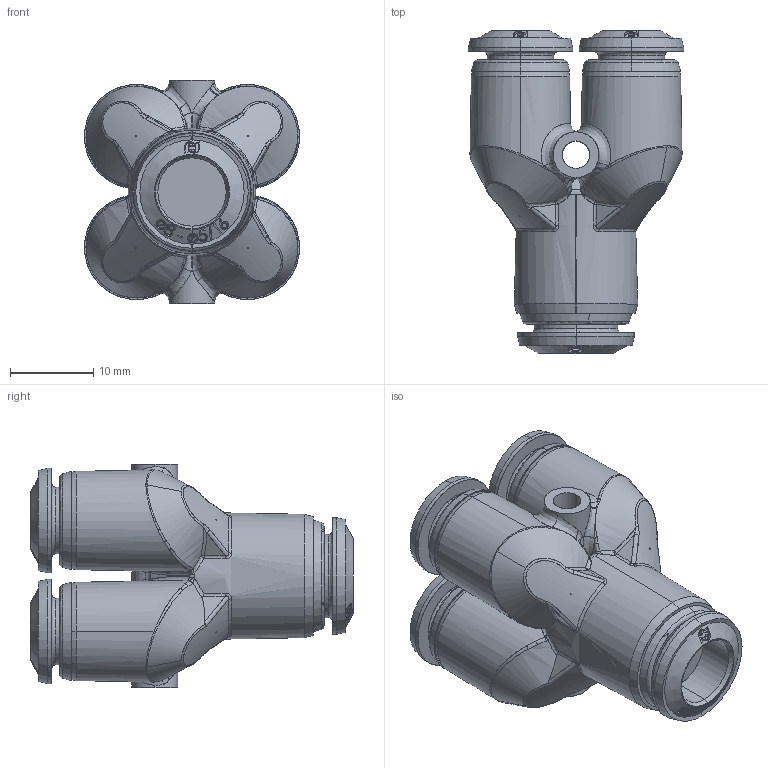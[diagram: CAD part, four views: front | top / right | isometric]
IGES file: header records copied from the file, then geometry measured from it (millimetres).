
Start section: SolidWorks IGES file using analytic representation for surfaces
Global section: file name: K:\Disegni Esecutivi\Serie 55000\ASSIEMI_55000\55330\ASSIEMI_PIENI_55330\5533000004.IGS; native system: SolidWorks 2007; preprocessor: SolidWorks 2007; author: cad02; date: 071129.112434; units: millimetre
Bounding box: 25.8 x 38.7 x 26.8 mm (x, y, z)
Surface area: 6232.3 mm2 (no closed solid volume)
Topology: 0 solids, 0 shells, 936 faces, 9728 edges, 9698 vertices
Faces by surface type: bspline 644, revolution 292
